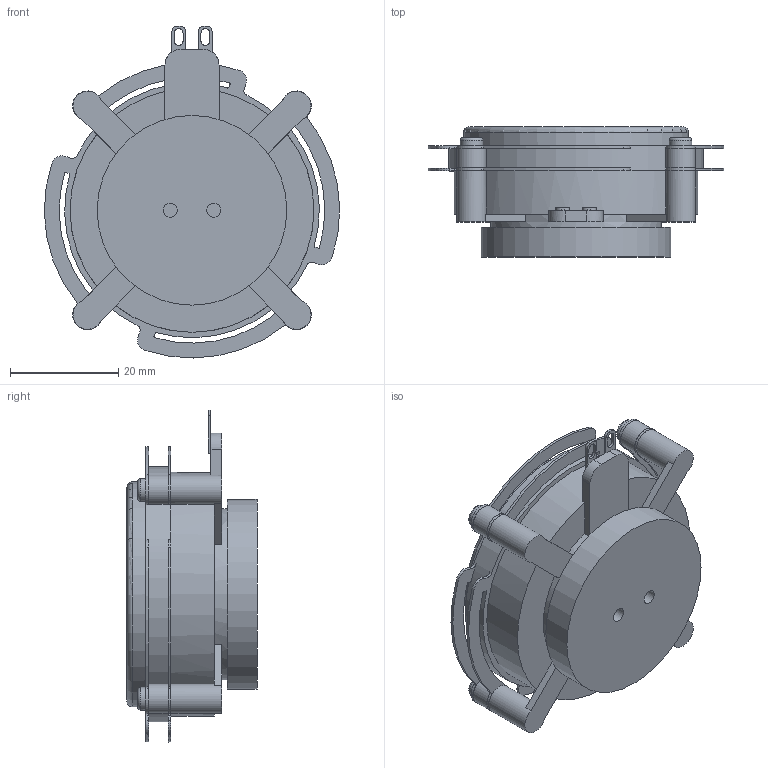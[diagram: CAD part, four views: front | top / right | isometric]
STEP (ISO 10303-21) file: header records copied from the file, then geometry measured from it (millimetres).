
FILE_DESCRIPTION(/* description */ (''),/* implementation_level */ '2;1');
FILE_NAME(/* name */ 'EX32Q2-4_IMS_Exciter.step',/* time_stamp */ '2025-11-06T12:46:09-05:00',/* author */ (''),/* organization */ (''),/* preprocessor_version */ 'ST-DEVELOPER v20.1',/* originating_system */ 'Autodesk Translation Framework v14.17.0.0',/* authorisation */ '');
FILE_SCHEMA (('AUTOMOTIVE_DESIGN { 1 0 10303 214 3 1 1 }'));
Length unit declared in the file: millimetre
Products named in the file (1): 4A24
Bounding box: 54.5 x 24 x 61.25 mm (x, y, z)
Volume: 33615.3 mm3; surface area: 12073.8 mm2
Topology: 2 solids, 2 shells, 239 faces, 684 edges, 458 vertices
Faces by surface type: plane 132, cylinder 97, bspline 5, torus 5
Full cylindrical faces by diameter (mm): 2.6 x2, 4.2 x4, 5.4 x8, 23.5 x2, 31.5 x1, 35 x1, 41.5 x1, 45 x1, 47 x1
Entity records: 9123 total; most frequent: CARTESIAN_POINT 2631, ORIENTED_EDGE 1368, DIRECTION 1364, EDGE_CURVE 684, AXIS2_PLACEMENT_3D 484, VERTEX_POINT 458, LINE 396, VECTOR 396
